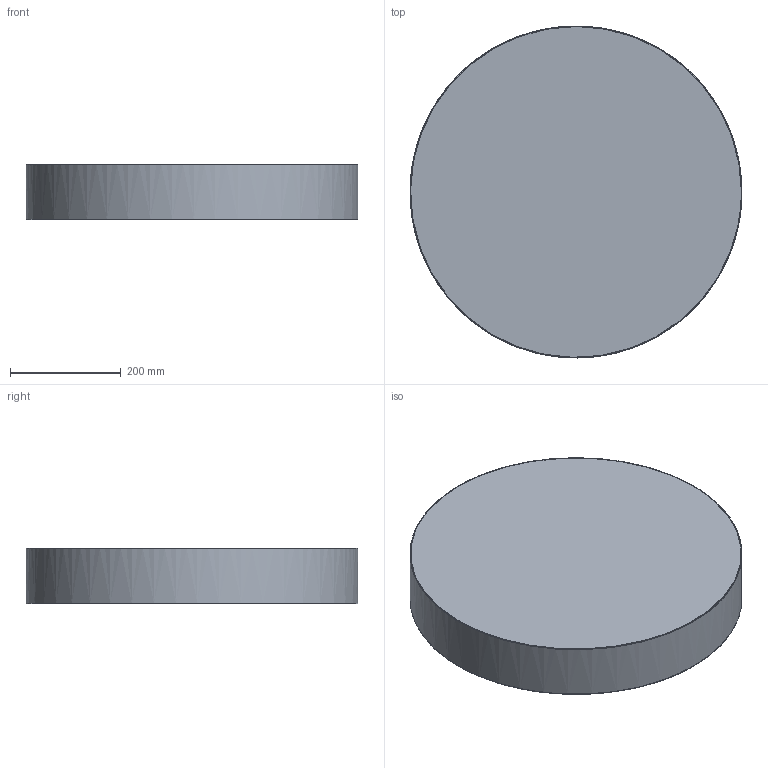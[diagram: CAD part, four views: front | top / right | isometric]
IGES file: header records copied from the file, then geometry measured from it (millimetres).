
Global section: file name: C:\Users\EQUIPO\Desktop\COLECCIONES ACB MODELADAS 3D OK\ISIA\isia-plafon-3453-60-led (IGES).igs; native system: Rhinoceros ( Oct  8 2013 ); preprocessor: Trout Lake IGES 012 Oct  8 2013; date: 190207.121112; units: millimetre
Bounding box: 599.96 x 599.97 x 100 mm (x, y, z)
Surface area: 1640032.7 mm2 (no closed solid volume)
Topology: 0 solids, 0 shells, 12 faces, 105 edges, 101 vertices
Faces by surface type: bspline 12
